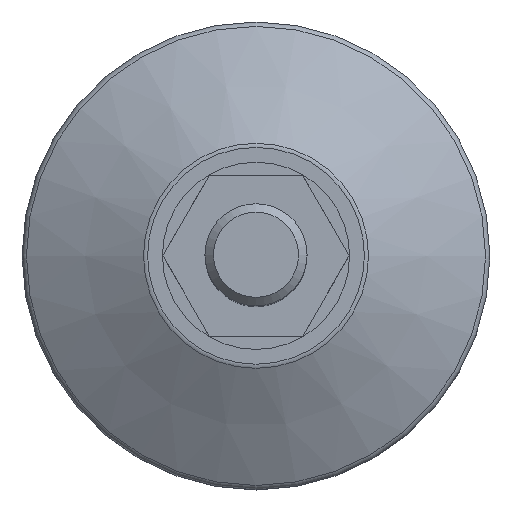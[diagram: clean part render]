
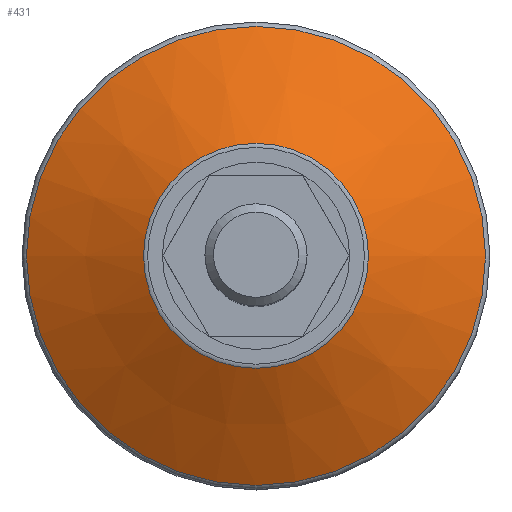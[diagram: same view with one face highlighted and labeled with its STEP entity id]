
A CAD part, top view. The second image highlights one B-rep face of the part: STEP entity #431.
In plain terms, the highlighted conical face has half-angle 61.113 degrees and reference radius 20.104 mm.
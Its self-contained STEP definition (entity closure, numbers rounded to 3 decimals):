
#77=CONICAL_SURFACE('',#489,20.104,61.113);
#93=FACE_BOUND('',#170,.T.);
#121=FACE_OUTER_BOUND('',#169,.T.);
#169=EDGE_LOOP('',(#347));
#170=EDGE_LOOP('',(#348));
#210=CIRCLE('',#461,13.226);
#226=CIRCLE('',#488,26.983);
#238=VERTEX_POINT('',#669);
#254=VERTEX_POINT('',#712);
#278=EDGE_CURVE('',#238,#238,#210,.T.);
#294=EDGE_CURVE('',#254,#254,#226,.T.);
#347=ORIENTED_EDGE('',*,*,#278,.T.);
#348=ORIENTED_EDGE('',*,*,#294,.F.);
#431=ADVANCED_FACE('',(#121,#93),#77,.T.);
#461=AXIS2_PLACEMENT_3D('',#670,#529,#530);
#488=AXIS2_PLACEMENT_3D('',#713,#583,#584);
#489=AXIS2_PLACEMENT_3D('',#714,#585,#586);
#529=DIRECTION('center_axis',(0.,0.,-1.));
#530=DIRECTION('ref_axis',(-1.,0.,0.));
#583=DIRECTION('center_axis',(0.,0.,-1.));
#584=DIRECTION('ref_axis',(-1.,0.,0.));
#585=DIRECTION('center_axis',(0.,0.,-1.));
#586=DIRECTION('ref_axis',(-1.,0.,0.));
#669=CARTESIAN_POINT('',(13.226,0.,8.876));
#670=CARTESIAN_POINT('Origin',(0.,0.,8.876));
#712=CARTESIAN_POINT('',(26.983,0.,1.285));
#713=CARTESIAN_POINT('Origin',(0.,0.,1.285));
#714=CARTESIAN_POINT('Origin',(0.,0.,5.08));
